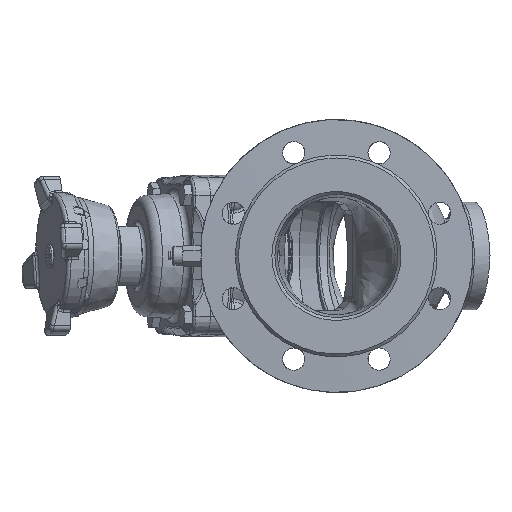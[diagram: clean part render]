
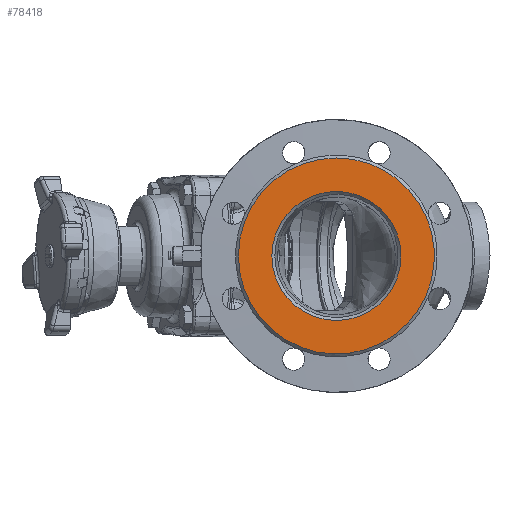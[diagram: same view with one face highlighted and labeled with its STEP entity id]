
A CAD part, left-side view. The second image highlights one B-rep face of the part: STEP entity #78418.
In plain terms, the highlighted planar face has unit normal (-1, 0, 0).
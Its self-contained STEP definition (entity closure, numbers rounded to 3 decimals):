
#7149 = AXIS2_PLACEMENT_3D ( 'NONE', #7189, #7178, #7177 ) ;
#7152 = FACE_OUTER_BOUND ( 'NONE', #78420, .T. ) ;
#7177 = DIRECTION ( 'NONE',  ( 0., 0., 1. ) ) ;
#7178 = DIRECTION ( 'NONE',  ( -1., 0., 0. ) ) ;
#7182 = DIRECTION ( 'NONE',  ( 0., 0., 1. ) ) ;
#7183 = DIRECTION ( 'NONE',  ( -1., 0., 0. ) ) ;
#7184 = CARTESIAN_POINT ( 'NONE',  ( -162., 0., 0. ) ) ;
#7185 = AXIS2_PLACEMENT_3D ( 'NONE', #7184, #7183, #7182 ) ;
#7186 = CIRCLE ( 'NONE', #7185, 79. ) ;
#7188 = PLANE ( 'NONE',  #7149 ) ;
#7189 = CARTESIAN_POINT ( 'NONE',  ( -162., -50., 0. ) ) ;
#7196 = FACE_BOUND ( 'NONE', #78427, .T. ) ;
#15536 = CARTESIAN_POINT ( 'NONE',  ( -162., 0., 79. ) ) ;
#15541 = VERTEX_POINT ( 'NONE', #15536 ) ;
#15543 = CARTESIAN_POINT ( 'NONE',  ( -162., 0., 52. ) ) ;
#15548 = VERTEX_POINT ( 'NONE', #15543 ) ;
#57923 = DIRECTION ( 'NONE',  ( 0., 0., 1. ) ) ;
#57924 = DIRECTION ( 'NONE',  ( 1., 0., 0. ) ) ;
#57925 = CARTESIAN_POINT ( 'NONE',  ( -162., 0., 0. ) ) ;
#57926 = AXIS2_PLACEMENT_3D ( 'NONE', #57925, #57924, #57923 ) ;
#57930 = CIRCLE ( 'NONE', #57926, 52. ) ;
#78369 = ORIENTED_EDGE ( 'NONE', *, *, #78417, .T. ) ;
#78374 = EDGE_CURVE ( 'NONE', #15548, #15548, #57930, .T. ) ;
#78416 = ORIENTED_EDGE ( 'NONE', *, *, #78374, .T. ) ;
#78417 = EDGE_CURVE ( 'NONE', #15541, #15541, #7186, .T. ) ;
#78418 = ADVANCED_FACE ( 'NONE', ( #7196, #7152 ), #7188, .T. ) ;
#78420 = EDGE_LOOP ( 'NONE', ( #78369 ) ) ;
#78427 = EDGE_LOOP ( 'NONE', ( #78416 ) ) ;
